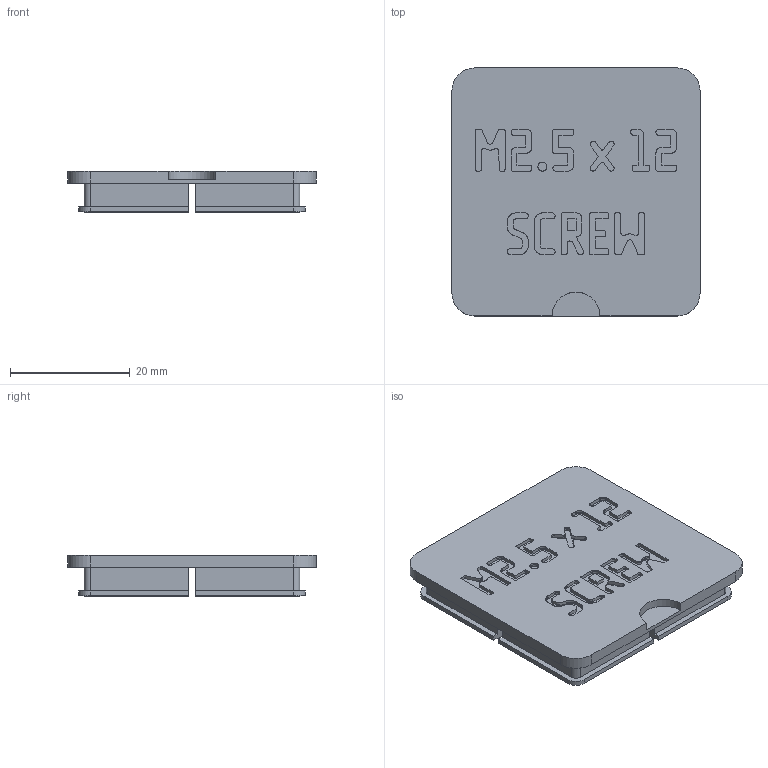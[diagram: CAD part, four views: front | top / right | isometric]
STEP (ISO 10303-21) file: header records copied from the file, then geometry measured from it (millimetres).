
FILE_DESCRIPTION(('Open CASCADE Model'),'2;1');
FILE_NAME('Open CASCADE Shape Model','2026-11-03T17:09:58',('Author'),( 'Open CASCADE'),'Open CASCADE STEP processor 8.0','build123d', 'Unknown');
FILE_SCHEMA(('AUTOMOTIVE_DESIGN { 1 0 10303 214 1 1 1 1 }'));
Products named in the file (1): COMPOUND
Bounding box: 41.5 x 41.5 x 6.9 mm (x, y, z)
Volume: 4174.9 mm3; surface area: 5565 mm2
Topology: 1 solids, 1 shells, 1363 faces, 4041 edges, 2694 vertices
Faces by surface type: plane 1342, cylinder 21
Entity records: 97132 total; most frequent: CARTESIAN_POINT 16537, DIRECTION 14697, LINE 11875, VECTOR 11875, ORIENTED_EDGE 8082, PCURVE 8082, DEFINITIONAL_REPRESENTATION 8082, EDGE_CURVE 4041
